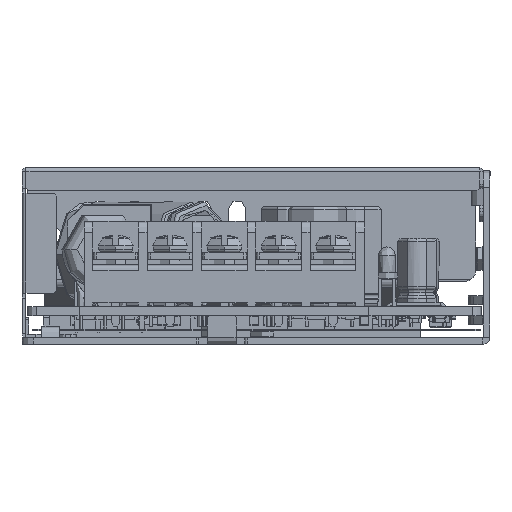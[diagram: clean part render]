
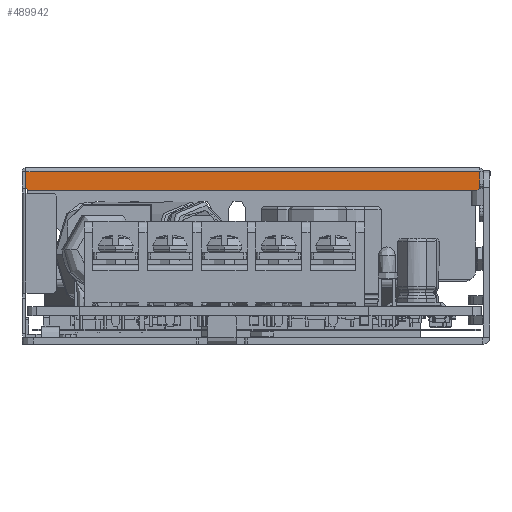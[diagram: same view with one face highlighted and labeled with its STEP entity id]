
A CAD part, left-side view. The second image highlights one B-rep face of the part: STEP entity #489942.
In plain terms, the highlighted planar face has unit normal (-1, 0, 0).
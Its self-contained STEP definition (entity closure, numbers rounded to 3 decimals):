
#489861=CARTESIAN_POINT('',(-35.6,-39.2,30.3));
#489862=VERTEX_POINT('',#489861);
#489869=CARTESIAN_POINT('',(-35.6,-39.2,27.5));
#489870=VERTEX_POINT('',#489869);
#489871=CARTESIAN_POINT('',(-35.6,-39.2,30.3));
#489872=DIRECTION('',(0.,0.,-1.));
#489873=VECTOR('',#489872,2.8);
#489874=LINE('',#489871,#489873);
#489875=EDGE_CURVE('',#489862,#489870,#489874,.T.);
#489894=CARTESIAN_POINT('',(-35.6,0.9,28.65));
#489895=DIRECTION('',(0.,0.,-1.));
#489896=DIRECTION('',(-1.,0.,0.));
#489897=AXIS2_PLACEMENT_3D('',#489894,#489896,#489895);
#489898=PLANE('',#489897);
#489899=CARTESIAN_POINT('',(-35.6,40.3,30.3));
#489900=VERTEX_POINT('',#489899);
#489901=CARTESIAN_POINT('',(-35.6,-39.2,30.3));
#489902=DIRECTION('',(0.,1.,0.));
#489903=VECTOR('',#489902,79.5);
#489904=LINE('',#489901,#489903);
#489905=EDGE_CURVE('',#489862,#489900,#489904,.T.);
#489906=ORIENTED_EDGE('E1585',*,*,#489905,.T.);
#489907=CARTESIAN_POINT('',(-35.6,40.3,27.5));
#489908=VERTEX_POINT('',#489907);
#489909=CARTESIAN_POINT('',(-35.6,40.3,30.3));
#489910=DIRECTION('',(0.,0.,-1.));
#489911=VECTOR('',#489910,2.8);
#489912=LINE('',#489909,#489911);
#489913=EDGE_CURVE('',#489900,#489908,#489912,.T.);
#489914=ORIENTED_EDGE('E1586',*,*,#489913,.T.);
#489915=CARTESIAN_POINT('',(-35.6,39.8,27.));
#489916=VERTEX_POINT('',#489915);
#489917=CARTESIAN_POINT('',(-35.6,39.8,27.5));
#489918=DIRECTION('',(0.,1.,0.));
#489919=DIRECTION('',(-1.,0.,0.));
#489920=AXIS2_PLACEMENT_3D('',#489917,#489919,#489918);
#489921=CIRCLE('',#489920,0.5);
#489922=EDGE_CURVE('',#489908,#489916,#489921,.T.);
#489923=ORIENTED_EDGE('E1587',*,*,#489922,.T.);
#489924=CARTESIAN_POINT('',(-35.6,-38.7,27.));
#489925=VERTEX_POINT('',#489924);
#489926=CARTESIAN_POINT('',(-35.6,39.8,27.));
#489927=DIRECTION('',(0.,-1.,0.));
#489928=VECTOR('',#489927,78.5);
#489929=LINE('',#489926,#489928);
#489930=EDGE_CURVE('',#489916,#489925,#489929,.T.);
#489931=ORIENTED_EDGE('E1588',*,*,#489930,.T.);
#489932=CARTESIAN_POINT('',(-35.6,-38.7,27.5));
#489933=DIRECTION('',(0.,0.,-1.));
#489934=DIRECTION('',(-1.,0.,0.));
#489935=AXIS2_PLACEMENT_3D('',#489932,#489934,#489933);
#489936=CIRCLE('',#489935,0.5);
#489937=EDGE_CURVE('',#489925,#489870,#489936,.T.);
#489938=ORIENTED_EDGE('E1589',*,*,#489937,.T.);
#489939=ORIENTED_EDGE('E1589',*,*,#489875,.F.);
#489940=EDGE_LOOP('',(#489906,#489914,#489923,#489931,#489938,#489939));
#489941=FACE_OUTER_BOUND('',#489940,.T.);
#489942=ADVANCED_FACE('F10',(#489941),#489898,.T.);
